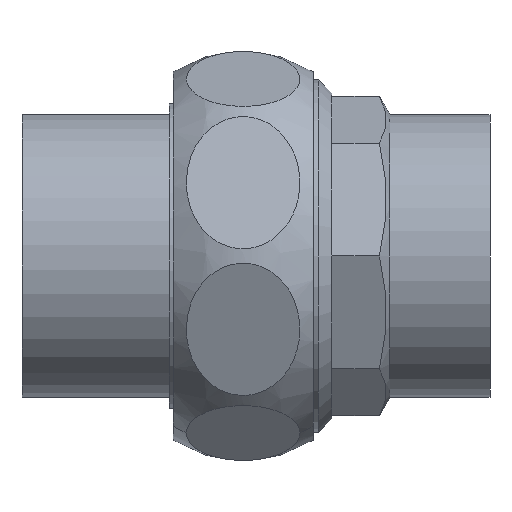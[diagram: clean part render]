
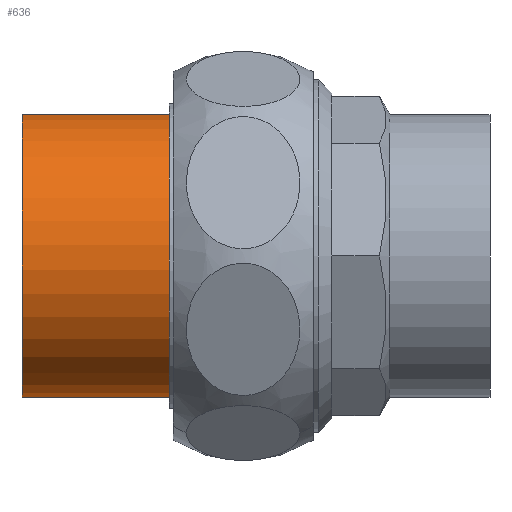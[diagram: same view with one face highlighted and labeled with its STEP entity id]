
A CAD part, front view. The second image highlights one B-rep face of the part: STEP entity #636.
In plain terms, the highlighted cylindrical face has radius 19.2 mm (diameter 38.4 mm), a full revolution.
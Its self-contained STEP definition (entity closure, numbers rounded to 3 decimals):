
#57=CYLINDRICAL_SURFACE('',#712,19.2);
#83=FACE_BOUND('',#240,.T.);
#108=CIRCLE('',#691,19.2);
#118=CIRCLE('',#711,19.2);
#168=FACE_OUTER_BOUND('',#239,.T.);
#239=EDGE_LOOP('',(#529));
#240=EDGE_LOOP('',(#530));
#337=VERTEX_POINT('',#1042);
#347=VERTEX_POINT('',#1072);
#403=EDGE_CURVE('',#337,#337,#108,.T.);
#413=EDGE_CURVE('',#347,#347,#118,.T.);
#529=ORIENTED_EDGE('',*,*,#403,.F.);
#530=ORIENTED_EDGE('',*,*,#413,.T.);
#636=ADVANCED_FACE('',(#168,#83),#57,.T.);
#691=AXIS2_PLACEMENT_3D('',#1043,#831,#832);
#711=AXIS2_PLACEMENT_3D('',#1073,#871,#872);
#712=AXIS2_PLACEMENT_3D('',#1074,#873,#874);
#831=DIRECTION('center_axis',(1.,0.,0.));
#832=DIRECTION('ref_axis',(0.,1.,0.));
#871=DIRECTION('center_axis',(1.,0.,0.));
#872=DIRECTION('ref_axis',(0.,1.,0.));
#873=DIRECTION('center_axis',(1.,0.,0.));
#874=DIRECTION('ref_axis',(0.,1.,0.));
#1042=CARTESIAN_POINT('',(20.,19.2,0.));
#1043=CARTESIAN_POINT('Origin',(20.,0.,0.));
#1072=CARTESIAN_POINT('',(0.,19.2,0.));
#1073=CARTESIAN_POINT('Origin',(0.,0.,0.));
#1074=CARTESIAN_POINT('Origin',(10.,0.,0.));
